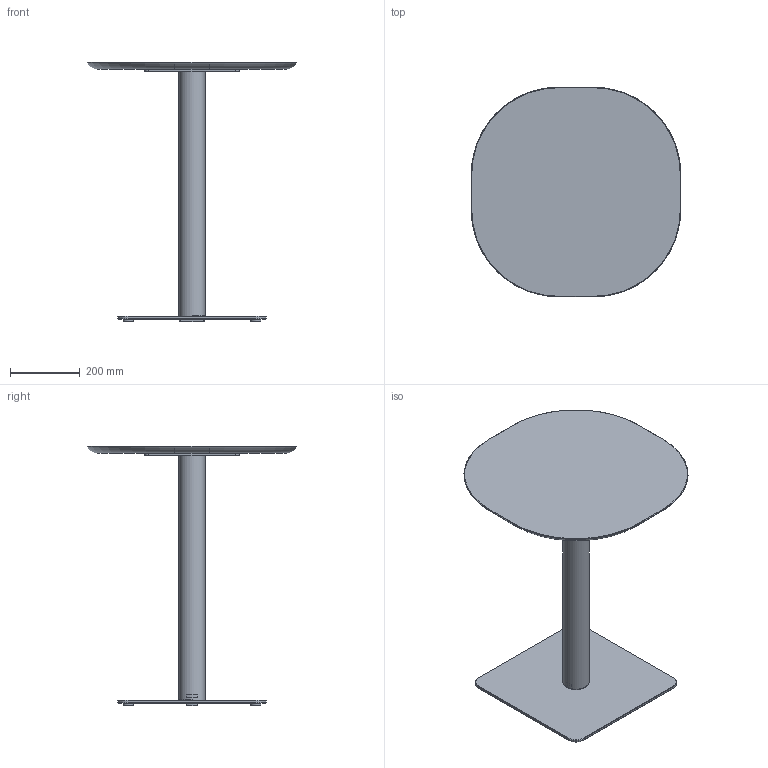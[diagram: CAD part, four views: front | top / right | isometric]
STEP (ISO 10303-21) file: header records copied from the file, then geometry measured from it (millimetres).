
FILE_DESCRIPTION( ('This file contains a STEP AP42 implementation' ,'as created by ZW3D STEP Interface translator.') ,'2;1' );
FILE_NAME( 'Henri - B_Carré - F2 - M3 - 600 x 600 x 750.stp' ,'24 912.165211', (''), ('ZWCAD Software Co.'), 'Version 1.0', 'ZW3D to STEP translator', '' );
FILE_SCHEMA(('AUTOMOTIVE_DESIGN { 1 0 10303 214 1 1 1 1 }'));
Length unit declared in the file: millimetre
Products named in the file (14): 0; PIED BISTROT PARAMETRIQUE_; COLONNE ACIER Ø76 V.02_; TUB-D076-02_; PLA-R76B-01_; CROIX ACIER 370 V.02_; CRX-X370-02_; SOCLE ACIER L 425x425 V.02_; SCL-R425-02_; PLA-R30A-01_; PLA-R30A-01; WUERTH 0276063020 Euro-screw 6.3x2 Verzinkt_; PLATEAU BISTROT PARAMETRIQUE_; insert_m6_13_
Assembly tree (22 placements, depth 3):
  0
  PIED BISTROT PARAMETRIQUE_
    COLONNE ACIER Ø76 V.02_
      TUB-D076-02_
      PLA-R76B-01_  x2
    CROIX ACIER 370 V.02_
      CRX-X370-02_
    SOCLE ACIER L 425x425 V.02_
      SCL-R425-02_
      PLA-R30A-01_
      PLA-R30A-01  x3
    WUERTH 0276063020 Euro-screw 6.3x2 Verzinkt_
    PLATEAU BISTROT PARAMETRIQUE_
      insert_m6_13_  x8
Bounding box: 600 x 600 x 744 mm (x, y, z)
Volume: 8204707.1 mm3; surface area: 1521275.7 mm2
Topology: 19 solids, 19 shells, 537 faces, 1310 edges, 822 vertices
Faces by surface type: plane 255, bspline 124, cylinder 102, cone 51, torus 5
Full cylindrical faces by diameter (mm): 4.88 x1, 6 x8, 6.3 x1, 8 x45, 12 x2, 14 x2, 30 x4, 72 x1, 76 x1
Entity records: 12361 total; most frequent: CARTESIAN_POINT 3470, ORIENTED_EDGE 1624, DIRECTION 1510, EDGE_CURVE 812, VERTEX_POINT 518, AXIS2_PLACEMENT_3D 504, VECTOR 502, LINE 502
